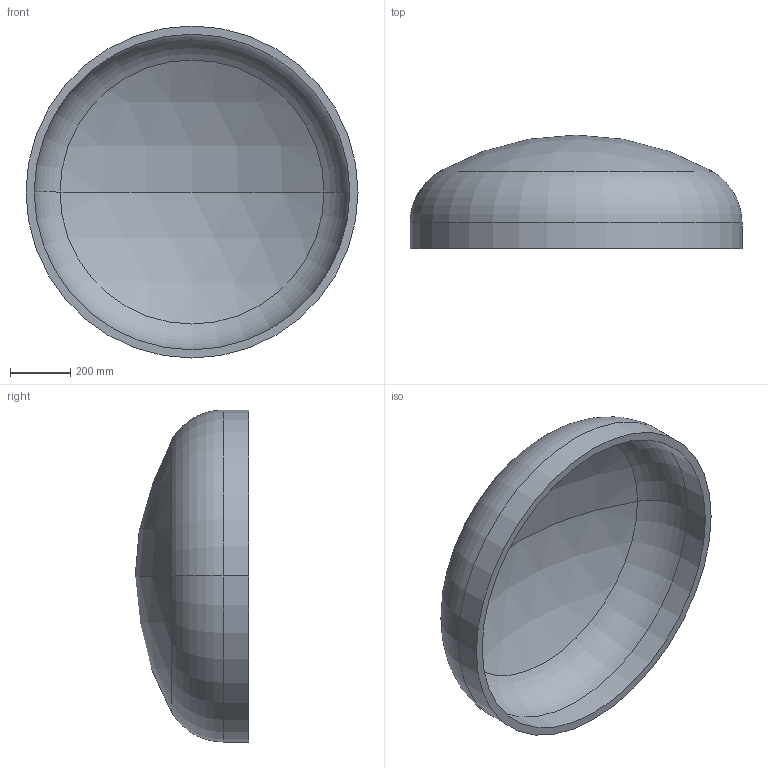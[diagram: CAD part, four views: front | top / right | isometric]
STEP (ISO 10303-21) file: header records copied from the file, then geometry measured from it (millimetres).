
FILE_DESCRIPTION (( 'STEP AP203' ), '1' );
FILE_NAME ('DIN 28013 Korbbogenform_-_Boden DIN 28013 - 1100 x 85 - I - s=27.step', '2016-07-01T09:04:36', ( '' ), ( '' ), 'SwSTEP 2.0', 'SolidWorks 2013', '' );
FILE_SCHEMA (( 'CONFIG_CONTROL_DESIGN' ));
Length unit declared in the file: millimetre
Products named in the file (1): DIN 28013 Korbbogenform_-_Boden DIN 28013 - 1100 x 85 - I - s=27
Bounding box: 1100 x 375.97 x 1100 mm (x, y, z)
Volume: 42171630 mm3; surface area: 3216365.4 mm2
Topology: 1 solids, 1 shells, 13 faces, 24 edges, 14 vertices
Faces by surface type: torus 4, cylinder 4, sphere 4, plane 1
Entity records: 407 total; most frequent: DIRECTION 72, CARTESIAN_POINT 52, ORIENTED_EDGE 48, AXIS2_PLACEMENT_3D 34, EDGE_CURVE 24, CIRCLE 20, EDGE_LOOP 14, VERTEX_POINT 14
